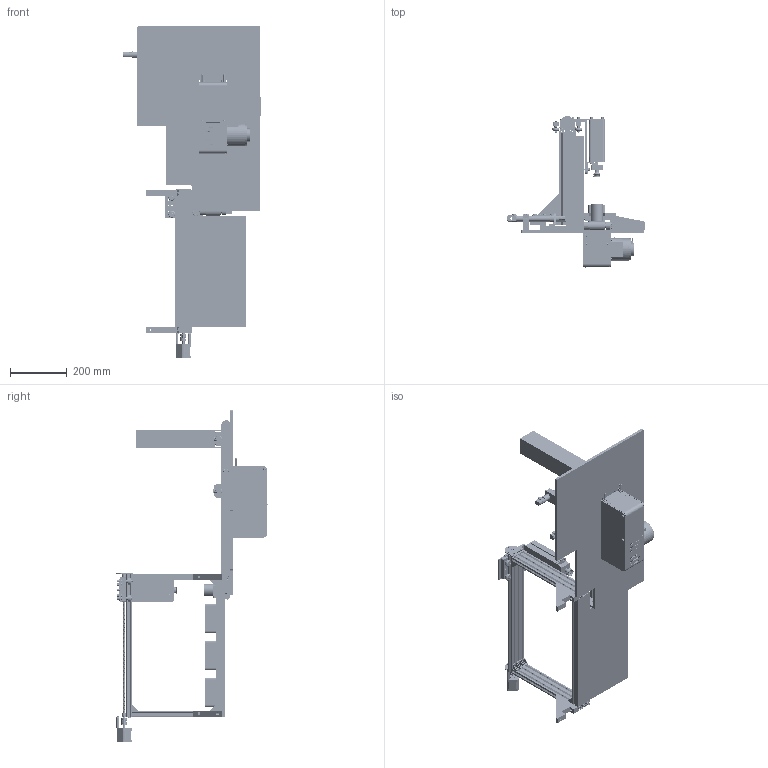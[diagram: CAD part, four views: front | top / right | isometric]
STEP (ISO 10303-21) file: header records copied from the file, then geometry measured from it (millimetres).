
FILE_DESCRIPTION(/* description */ (''),/* implementation_level */ '2;1');
FILE_NAME(/* name */ 'Assieme_automazione.stp',/* time_stamp */ '2024-10-25T15:54:03+02:00',/* author */ ('R5800u'),/* organization */ (''),/* preprocessor_version */ 'ST-DEVELOPER v20',/* originating_system */ 'Autodesk Inventor 2025',/* authorisation */ '');
FILE_SCHEMA (('AUTOMOTIVE_DESIGN { 1 0 10303 214 3 1 1 }'));
Products named in the file (122): Assieme1; Automazione 2; vslot-4020-verticaleipt; Solido42; Solido45; Solido39; Solido44; Solido60; Solido61; Solido66; Solido65; Solido62; Solido63; Solido46; Solido43; Solido35; Solido34; Solido38; Solido36; Solido37; Solido64; Solido41; Solido40; Piatto guida; Solido32; Solido1; Solido53; Solido52; Solido56; Solido30; Solido29; Solido28; Solido26; Solido25; Solido24; Solido23; Solido22; Solido21; Solido57; Solido19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
Assembly tree (182 placements, depth 4):
  Assieme1
    Automazione 2
      vslot-4020-verticaleipt
      Solido42
      Solido45
      Solido39
      Solido44
      Solido60
      Solido61
      Solido66
      Solido65
      Solido62
      Solido63
      Solido46
      Solido43
      Solido35
      Solido34
      Solido38
      Solido36
      Solido37
      Solido64
      Solido41
      Solido40
      Piatto guida
        Solido32
        Solido1
        Solido53
        Solido52
        Solido56
        Solido30
        Solido29
        Solido28
        Solido26
        Solido25
        Solido24
        Solido23
        Solido22
        Solido21
        Solido57
        Solido19
        Solido18
        Solido17
        Solido16
        Solido27
        Solido20
        Solido59
        Solido54
        Solido49
        Solido48
        Solido31
        Solido14
        Solido13
        Solido12
        Solido11
        Solido15
        Solido50
        Solido10
        Solido9
        Solido51
        Solido7
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Bounding box: 483 x 531.06 x 1166.25 mm (x, y, z)
Volume: 9079992.6 mm3; surface area: 3079240.5 mm2
Topology: 174 solids, 174 shells, 5803 faces, 14611 edges, 9561 vertices
Faces by surface type: plane 3359, cylinder 1811, cone 527, torus 87, bspline 19
Full cylindrical faces by diameter (mm): 1.946 x4, 2.459 x1, 2.5 x8, 3 x8, 3.2 x7, 3.242 x1, 3.4 x4, 3.9 x4, 4.134 x20, 4.2 x18, 4.25 x6, 4.3 x6, 4.763 x1, 4.85 x4, 4.917 x9, 4.98 x1, 5 x86, 5.1 x58, 5.3 x25, 5.5 x139, 6 x14, 6.5 x6, 6.6 x4, 7.1 x12, 7.11 x2, 7.2 x8, 8 x201, 8.376 x2, 8.5 x49, 8.566 x7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
Entity records: 172523 total; most frequent: CARTESIAN_POINT 58422, ORIENTED_EDGE 22686, DIRECTION 21938, EDGE_CURVE 11343, AXIS2_PLACEMENT_3D 7496, VERTEX_POINT 7452, LINE 6946, VECTOR 6946
